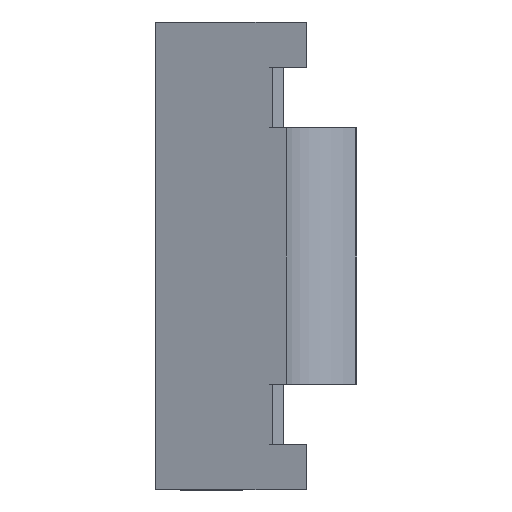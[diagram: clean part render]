
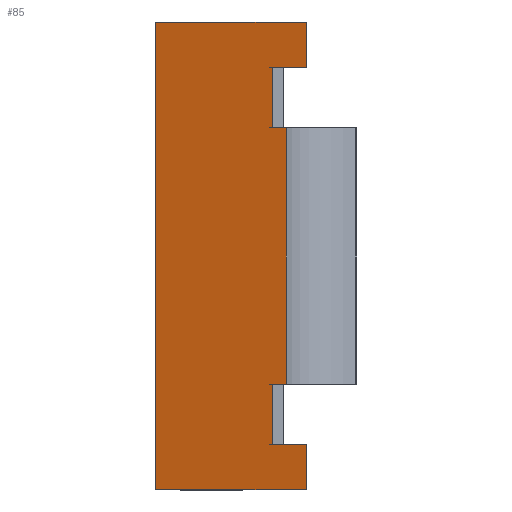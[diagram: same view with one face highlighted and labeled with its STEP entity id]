
A CAD part, front view. The second image highlights one B-rep face of the part: STEP entity #85.
In plain terms, the highlighted planar face has unit normal (0.913, -0.407, 0).
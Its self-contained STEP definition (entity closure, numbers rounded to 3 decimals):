
#85=ADVANCED_FACE('',(#952),#954,.T.);
#952=FACE_BOUND('',#953,.T.);
#953=EDGE_LOOP('',(#1636,#1637,#1638,#1639,#1640,#1641,#1642,#1643,#1644,#1645,#1646,
#1647));
#954=PLANE('',#955);
#955=AXIS2_PLACEMENT_3D('',#956,#957,#958);
#956=CARTESIAN_POINT('',(-8.146,-44.294,0.));
#957=DIRECTION('',(0.914,-0.407,0.));
#958=DIRECTION('',(0.407,0.914,0.));
#1636=ORIENTED_EDGE('',*,*,#2204,.F.);
#1637=ORIENTED_EDGE('',*,*,#2203,.T.);
#1638=ORIENTED_EDGE('',*,*,#2205,.T.);
#1639=ORIENTED_EDGE('',*,*,#2206,.T.);
#1640=ORIENTED_EDGE('',*,*,#2207,.T.);
#1641=ORIENTED_EDGE('',*,*,#2208,.F.);
#1642=ORIENTED_EDGE('',*,*,#2209,.T.);
#1643=ORIENTED_EDGE('',*,*,#2210,.T.);
#1644=ORIENTED_EDGE('',*,*,#2211,.T.);
#1645=ORIENTED_EDGE('',*,*,#2212,.T.);
#1646=ORIENTED_EDGE('',*,*,#2213,.T.);
#1647=ORIENTED_EDGE('',*,*,#2193,.T.);
#2193=EDGE_CURVE('',#2492,#2489,#2493,.F.);
#2203=EDGE_CURVE('',#2501,#2508,#2510,.F.);
#2204=EDGE_CURVE('',#2501,#2489,#2511,.F.);
#2205=EDGE_CURVE('',#2508,#2512,#2513,.F.);
#2206=EDGE_CURVE('',#2512,#2514,#2515,.F.);
#2207=EDGE_CURVE('',#2514,#2516,#2517,.T.);
#2208=EDGE_CURVE('',#2518,#2516,#2519,.T.);
#2209=EDGE_CURVE('',#2518,#2520,#2521,.F.);
#2210=EDGE_CURVE('',#2520,#2522,#2523,.T.);
#2211=EDGE_CURVE('',#2522,#2524,#2525,.T.);
#2212=EDGE_CURVE('',#2524,#2526,#2527,.F.);
#2213=EDGE_CURVE('',#2526,#2492,#2528,.F.);
#2489=VERTEX_POINT('',#2988);
#2492=VERTEX_POINT('',#2994);
#2493=LINE('',#2995,#2996);
#2501=VERTEX_POINT('',#3013);
#2508=VERTEX_POINT('',#3029);
#2510=LINE('',#3033,#3034);
#2511=LINE('',#3036,#3037);
#2512=VERTEX_POINT('',#3039);
#2513=LINE('',#3040,#3041);
#2514=VERTEX_POINT('',#3043);
#2515=LINE('',#3044,#3045);
#2516=VERTEX_POINT('',#3047);
#2517=LINE('',#3048,#3049);
#2518=VERTEX_POINT('',#3051);
#2519=LINE('',#3052,#3053);
#2520=VERTEX_POINT('',#3055);
#2521=LINE('',#3056,#3057);
#2522=VERTEX_POINT('',#3059);
#2523=LINE('',#3060,#3061);
#2524=VERTEX_POINT('',#3063);
#2525=LINE('',#3064,#3065);
#2526=VERTEX_POINT('',#3067);
#2527=LINE('',#3068,#3069);
#2528=LINE('',#3071,#3072);
#2988=CARTESIAN_POINT('',(-0.792,-27.78,4.2));
#2994=CARTESIAN_POINT('',(-1.336,-29.,4.2));
#2995=CARTESIAN_POINT('',(-0.792,-27.78,4.2));
#2996=VECTOR('',#2997,1.);
#2997=DIRECTION('',(-0.407,-0.914,0.));
#3013=CARTESIAN_POINT('',(-0.792,-27.78,14.4));
#3029=CARTESIAN_POINT('',(-1.336,-29.,14.4));
#3033=CARTESIAN_POINT('',(-1.336,-29.,14.4));
#3034=VECTOR('',#3035,1.);
#3035=DIRECTION('',(0.407,0.914,0.));
#3036=CARTESIAN_POINT('',(-0.792,-27.78,4.2));
#3037=VECTOR('',#3038,1.);
#3038=DIRECTION('',(0.,0.,1.));
#3039=CARTESIAN_POINT('',(-1.336,-29.,16.8));
#3040=CARTESIAN_POINT('',(-1.336,-29.,16.8));
#3041=VECTOR('',#3042,1.);
#3042=DIRECTION('',(0.,0.,-1.));
#3043=CARTESIAN_POINT('',(0.,-26.,16.8));
#3044=CARTESIAN_POINT('',(0.,-26.,16.8));
#3045=VECTOR('',#3046,1.);
#3046=DIRECTION('',(-0.407,-0.914,0.));
#3047=CARTESIAN_POINT('',(0.,-26.,18.6));
#3048=CARTESIAN_POINT('',(0.,-26.,16.8));
#3049=VECTOR('',#3050,1.);
#3050=DIRECTION('',(0.,0.,1.));
#3051=CARTESIAN_POINT('',(-6.,-39.474,18.6));
#3052=CARTESIAN_POINT('',(-6.,-39.474,18.6));
#3053=VECTOR('',#3054,1.);
#3054=DIRECTION('',(0.407,0.914,0.));
#3055=CARTESIAN_POINT('',(-6.,-39.474,0.));
#3056=CARTESIAN_POINT('',(-6.,-39.474,0.));
#3057=VECTOR('',#3058,1.);
#3058=DIRECTION('',(0.,0.,1.));
#3059=CARTESIAN_POINT('',(0.,-26.,0.));
#3060=CARTESIAN_POINT('',(-6.,-39.474,0.));
#3061=VECTOR('',#3062,1.);
#3062=DIRECTION('',(0.407,0.914,0.));
#3063=CARTESIAN_POINT('',(0.,-26.,1.8));
#3064=CARTESIAN_POINT('',(0.,-26.,0.));
#3065=VECTOR('',#3066,1.);
#3066=DIRECTION('',(0.,0.,1.));
#3067=CARTESIAN_POINT('',(-1.336,-29.,1.8));
#3068=CARTESIAN_POINT('',(-1.336,-29.,1.8));
#3069=VECTOR('',#3070,1.);
#3070=DIRECTION('',(0.407,0.914,0.));
#3071=CARTESIAN_POINT('',(-1.336,-29.,4.2));
#3072=VECTOR('',#3073,1.);
#3073=DIRECTION('',(0.,0.,-1.));
